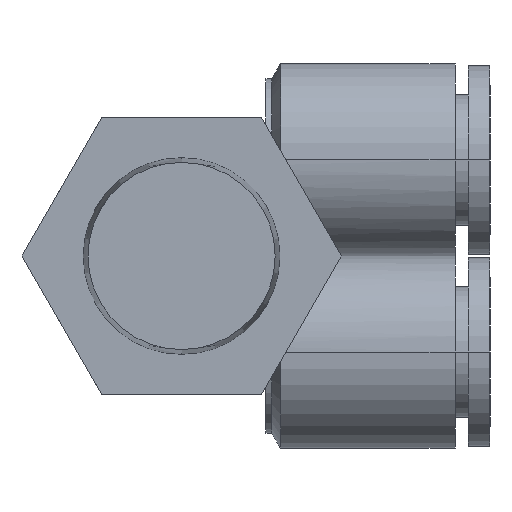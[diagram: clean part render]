
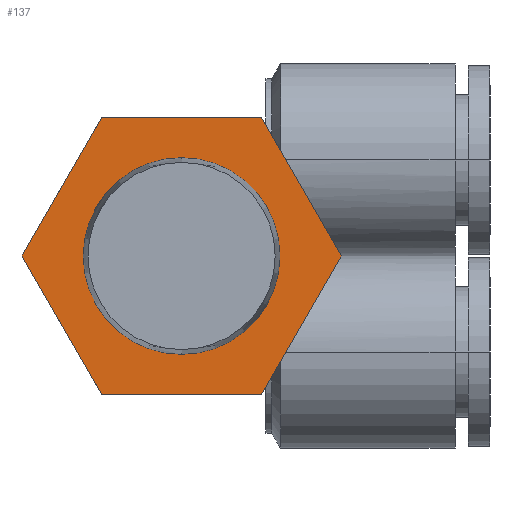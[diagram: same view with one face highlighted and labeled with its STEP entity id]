
A CAD part, front view. The second image highlights one B-rep face of the part: STEP entity #137.
In plain terms, the highlighted planar face has unit normal (0, -1, 0).
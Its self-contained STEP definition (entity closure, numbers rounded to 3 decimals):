
#30 = CARTESIAN_POINT ( 'NONE',  ( 5.485, 5.8, 9.5 ) ) ;
#48 = ORIENTED_EDGE ( 'NONE', *, *, #2036, .T. ) ;
#100 = DIRECTION ( 'NONE',  ( 0., 0., 1. ) ) ;
#137 = ADVANCED_FACE ( 'NONE', ( #1016, #2192 ), #3383, .F. ) ;
#267 = CARTESIAN_POINT ( 'NONE',  ( -6.76, 5.8, -9.5 ) ) ;
#308 = LINE ( 'NONE', #267, #2507 ) ;
#326 = VERTEX_POINT ( 'NONE', #2538 ) ;
#397 = VECTOR ( 'NONE', #888, 1000. ) ;
#414 = DIRECTION ( 'NONE',  ( 0., 1., 0. ) ) ;
#482 = ORIENTED_EDGE ( 'NONE', *, *, #2466, .T. ) ;
#580 = ORIENTED_EDGE ( 'NONE', *, *, #2585, .T. ) ;
#663 = CARTESIAN_POINT ( 'NONE',  ( -10.97, 5.8, 0. ) ) ;
#691 = VERTEX_POINT ( 'NONE', #1395 ) ;
#705 = CARTESIAN_POINT ( 'NONE',  ( -6.76, 5.8, 0. ) ) ;
#741 = DIRECTION ( 'NONE',  ( 0.5, 0., -0.866 ) ) ;
#742 = CARTESIAN_POINT ( 'NONE',  ( 6.537, 5.8, 7.677 ) ) ;
#755 = VECTOR ( 'NONE', #1717, 1000. ) ;
#888 = DIRECTION ( 'NONE',  ( -0.5, 0., -0.866 ) ) ;
#910 = EDGE_LOOP ( 'NONE', ( #1777, #1726 ) ) ;
#923 = EDGE_CURVE ( 'NONE', #1739, #691, #1000, .T. ) ;
#938 = CARTESIAN_POINT ( 'NONE',  ( 0., 5.8, 6.76 ) ) ;
#999 = LINE ( 'NONE', #742, #3748 ) ;
#1000 = CIRCLE ( 'NONE', #1441, 6.76 ) ;
#1014 = EDGE_CURVE ( 'NONE', #326, #3445, #999, .T. ) ;
#1016 = FACE_OUTER_BOUND ( 'NONE', #2986, .T. ) ;
#1034 = LINE ( 'NONE', #2503, #3442 ) ;
#1199 = LINE ( 'NONE', #2326, #755 ) ;
#1264 = CARTESIAN_POINT ( 'NONE',  ( 0., 5.8, 0. ) ) ;
#1266 = VECTOR ( 'NONE', #741, 1000. ) ;
#1297 = EDGE_CURVE ( 'NONE', #691, #1739, #1624, .T. ) ;
#1303 = DIRECTION ( 'NONE',  ( 0., 1., 0. ) ) ;
#1304 = DIRECTION ( 'NONE',  ( 1., 0., 0. ) ) ;
#1311 = AXIS2_PLACEMENT_3D ( 'NONE', #3088, #1303, #100 ) ;
#1395 = CARTESIAN_POINT ( 'NONE',  ( 0., 5.8, -6.76 ) ) ;
#1441 = AXIS2_PLACEMENT_3D ( 'NONE', #1264, #2455, #3656 ) ;
#1527 = VERTEX_POINT ( 'NONE', #2283 ) ;
#1624 = CIRCLE ( 'NONE', #1311, 6.76 ) ;
#1664 = DIRECTION ( 'NONE',  ( -0.5, 0., 0.866 ) ) ;
#1676 = CARTESIAN_POINT ( 'NONE',  ( -5.485, 5.8, -9.5 ) ) ;
#1717 = DIRECTION ( 'NONE',  ( -1., 0., 0. ) ) ;
#1726 = ORIENTED_EDGE ( 'NONE', *, *, #1297, .T. ) ;
#1739 = VERTEX_POINT ( 'NONE', #938 ) ;
#1754 = DIRECTION ( 'NONE',  ( 1., 0., 0. ) ) ;
#1777 = ORIENTED_EDGE ( 'NONE', *, *, #923, .T. ) ;
#2036 = EDGE_CURVE ( 'NONE', #3445, #3132, #1199, .T. ) ;
#2192 = FACE_BOUND ( 'NONE', #910, .T. ) ;
#2283 = CARTESIAN_POINT ( 'NONE',  ( 5.485, 5.8, -9.5 ) ) ;
#2326 = CARTESIAN_POINT ( 'NONE',  ( -6.76, 5.8, 9.5 ) ) ;
#2435 = ORIENTED_EDGE ( 'NONE', *, *, #2525, .T. ) ;
#2455 = DIRECTION ( 'NONE',  ( 0., 1., 0. ) ) ;
#2466 = EDGE_CURVE ( 'NONE', #1527, #326, #1034, .T. ) ;
#2503 = CARTESIAN_POINT ( 'NONE',  ( 6.537, 5.8, -7.677 ) ) ;
#2506 = AXIS2_PLACEMENT_3D ( 'NONE', #705, #414, #1304 ) ;
#2507 = VECTOR ( 'NONE', #1754, 1000. ) ;
#2525 = EDGE_CURVE ( 'NONE', #2932, #3306, #3777, .T. ) ;
#2538 = CARTESIAN_POINT ( 'NONE',  ( 10.97, 5.8, 0. ) ) ;
#2583 = DIRECTION ( 'NONE',  ( 0.5, 0., 0.866 ) ) ;
#2585 = EDGE_CURVE ( 'NONE', #3132, #2932, #3268, .T. ) ;
#2753 = CARTESIAN_POINT ( 'NONE',  ( -5.485, 5.8, 9.5 ) ) ;
#2805 = EDGE_CURVE ( 'NONE', #3306, #1527, #308, .T. ) ;
#2932 = VERTEX_POINT ( 'NONE', #663 ) ;
#2986 = EDGE_LOOP ( 'NONE', ( #580, #2435, #3666, #482, #3033, #48 ) ) ;
#3033 = ORIENTED_EDGE ( 'NONE', *, *, #1014, .T. ) ;
#3088 = CARTESIAN_POINT ( 'NONE',  ( 0., 5.8, 0. ) ) ;
#3107 = CARTESIAN_POINT ( 'NONE',  ( -9.917, 5.8, -1.823 ) ) ;
#3132 = VERTEX_POINT ( 'NONE', #2753 ) ;
#3221 = CARTESIAN_POINT ( 'NONE',  ( -9.917, 5.8, 1.823 ) ) ;
#3268 = LINE ( 'NONE', #3221, #397 ) ;
#3306 = VERTEX_POINT ( 'NONE', #1676 ) ;
#3383 = PLANE ( 'NONE',  #2506 ) ;
#3442 = VECTOR ( 'NONE', #2583, 1000. ) ;
#3445 = VERTEX_POINT ( 'NONE', #30 ) ;
#3656 = DIRECTION ( 'NONE',  ( 0., 0., 1. ) ) ;
#3666 = ORIENTED_EDGE ( 'NONE', *, *, #2805, .T. ) ;
#3748 = VECTOR ( 'NONE', #1664, 1000. ) ;
#3777 = LINE ( 'NONE', #3107, #1266 ) ;
